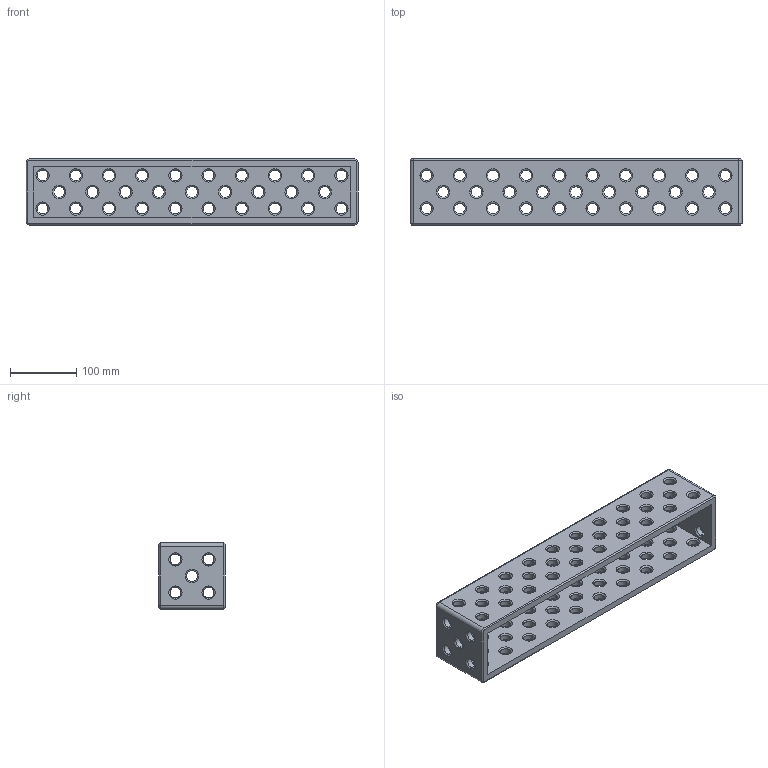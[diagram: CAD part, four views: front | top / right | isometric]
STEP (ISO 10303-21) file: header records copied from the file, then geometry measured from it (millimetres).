
FILE_DESCRIPTION (( 'STEP AP203' ), '1' );
FILE_NAME ('160360_500x100x100.step', '2014-08-11T15:31:11', ( 'User' ), ( '' ), 'SwSTEP 2.0', 'SolidWorks 2014', '' );
FILE_SCHEMA (( 'CONFIG_CONTROL_DESIGN' ));
Length unit declared in the file: millimetre
Products named in the file (1): 160360_500x100x100
Bounding box: 500 x 100 x 100 mm (x, y, z)
Volume: 1557325.8 mm3; surface area: 323260.1 mm2
Topology: 1 solids, 1 shells, 613 faces, 1426 edges, 816 vertices
Faces by surface type: cylinder 202, cone 198, torus 198, plane 15
Entity records: 17987 total; most frequent: DIRECTION 3648, CARTESIAN_POINT 2856, ORIENTED_EDGE 2852, AXIS2_PLACEMENT_3D 1608, EDGE_CURVE 1426, CIRCLE 994, VERTEX_POINT 816, EDGE_LOOP 808
